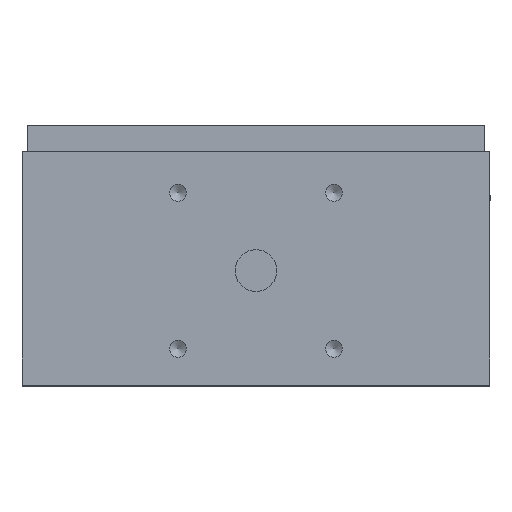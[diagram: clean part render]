
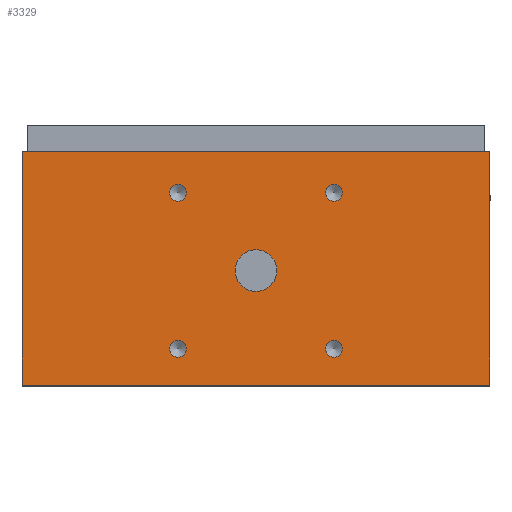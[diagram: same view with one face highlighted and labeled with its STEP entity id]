
A CAD part, top view. The second image highlights one B-rep face of the part: STEP entity #3329.
In plain terms, the highlighted planar face has unit normal (0, 0, 1) as drawn and (0, 0, -1) by its records, which use the part's own axes.
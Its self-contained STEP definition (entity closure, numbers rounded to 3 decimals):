
#3016=CARTESIAN_POINT('',(28.379,8.,0.0));
#3017=VERTEX_POINT('',#3016);
#3018=CARTESIAN_POINT('',(30.0,8.,0.0));
#3019=DIRECTION('',(0.0,0.0,1.0));
#3020=DIRECTION('',(-1.0,0.0,0.0));
#3021=AXIS2_PLACEMENT_3D('',#3018,#3019,#3020);
#3022=CIRCLE('',#3021,1.621);
#3023=EDGE_CURVE('',#3017,#3017,#3022,.T.);
#3053=CARTESIAN_POINT('',(58.379,8.,0.0));
#3054=VERTEX_POINT('',#3053);
#3055=CARTESIAN_POINT('',(60.0,8.,0.0));
#3056=DIRECTION('',(0.0,0.0,1.0));
#3057=DIRECTION('',(-1.0,0.0,0.0));
#3058=AXIS2_PLACEMENT_3D('',#3055,#3056,#3057);
#3059=CIRCLE('',#3058,1.621);
#3060=EDGE_CURVE('',#3054,#3054,#3059,.T.);
#3090=CARTESIAN_POINT('',(28.379,38.0,0.0));
#3091=VERTEX_POINT('',#3090);
#3092=CARTESIAN_POINT('',(30.0,38.0,0.0));
#3093=DIRECTION('',(0.0,0.0,1.0));
#3094=DIRECTION('',(-1.0,0.0,0.0));
#3095=AXIS2_PLACEMENT_3D('',#3092,#3093,#3094);
#3096=CIRCLE('',#3095,1.621);
#3097=EDGE_CURVE('',#3091,#3091,#3096,.T.);
#3127=CARTESIAN_POINT('',(58.379,38.0,0.0));
#3128=VERTEX_POINT('',#3127);
#3129=CARTESIAN_POINT('',(60.,38.0,0.0));
#3130=DIRECTION('',(0.0,0.0,1.0));
#3131=DIRECTION('',(-1.0,0.0,0.0));
#3132=AXIS2_PLACEMENT_3D('',#3129,#3130,#3131);
#3133=CIRCLE('',#3132,1.621);
#3134=EDGE_CURVE('',#3128,#3128,#3133,.T.);
#3158=CARTESIAN_POINT('',(41.,23.,0.0));
#3159=VERTEX_POINT('',#3158);
#3160=CARTESIAN_POINT('',(45.,23.,0.0));
#3161=DIRECTION('',(0.0,0.0,1.0));
#3162=DIRECTION('',(1.0,0.0,0.0));
#3163=AXIS2_PLACEMENT_3D('',#3160,#3161,#3162);
#3164=CIRCLE('',#3163,4.0);
#3165=EDGE_CURVE('',#3159,#3159,#3164,.T.);
#3194=CARTESIAN_POINT('',(0.,45.0,0.0));
#3195=VERTEX_POINT('',#3194);
#3202=CARTESIAN_POINT('',(0.0,0.0,0.0));
#3203=VERTEX_POINT('',#3202);
#3204=CARTESIAN_POINT('',(0.,45.0,0.0));
#3205=DIRECTION('',(0.0,-1.0,0.0));
#3206=VECTOR('',#3205,45.0);
#3207=LINE('',#3204,#3206);
#3208=EDGE_CURVE('',#3195,#3203,#3207,.T.);
#3232=CARTESIAN_POINT('',(90.,45.,0.0));
#3233=VERTEX_POINT('',#3232);
#3240=CARTESIAN_POINT('',(90.,45.,0.0));
#3241=DIRECTION('',(-1.0,0.0,0.0));
#3242=VECTOR('',#3241,90.0);
#3243=LINE('',#3240,#3242);
#3244=EDGE_CURVE('',#3233,#3195,#3243,.T.);
#3263=CARTESIAN_POINT('',(90.,0.,0.0));
#3264=VERTEX_POINT('',#3263);
#3271=CARTESIAN_POINT('',(90.,0.,0.0));
#3272=DIRECTION('',(0.0,1.0,0.0));
#3273=VECTOR('',#3272,45.);
#3274=LINE('',#3271,#3273);
#3275=EDGE_CURVE('',#3264,#3233,#3274,.T.);
#3293=CARTESIAN_POINT('',(0.0,0.0,0.0));
#3294=DIRECTION('',(1.0,0.0,0.0));
#3295=VECTOR('',#3294,90.);
#3296=LINE('',#3293,#3295);
#3297=EDGE_CURVE('',#3203,#3264,#3296,.T.);
#3303=CARTESIAN_POINT('',(45.,22.5,0.0));
#3304=DIRECTION('',(0.0,0.0,1.0));
#3305=DIRECTION('',(1.0,0.0,0.0));
#3306=AXIS2_PLACEMENT_3D('',#3303,#3304,#3305);
#3307=PLANE('',#3306);
#3308=ORIENTED_EDGE('',*,*,#3297,.F.);
#3309=ORIENTED_EDGE('',*,*,#3208,.F.);
#3310=ORIENTED_EDGE('',*,*,#3244,.F.);
#3311=ORIENTED_EDGE('',*,*,#3275,.F.);
#3312=EDGE_LOOP('',(#3308,#3309,#3310,#3311));
#3313=FACE_OUTER_BOUND('',#3312,.T.);
#3314=ORIENTED_EDGE('',*,*,#3023,.T.);
#3315=EDGE_LOOP('',(#3314));
#3316=FACE_BOUND('',#3315,.T.);
#3317=ORIENTED_EDGE('',*,*,#3060,.T.);
#3318=EDGE_LOOP('',(#3317));
#3319=FACE_BOUND('',#3318,.T.);
#3320=ORIENTED_EDGE('',*,*,#3097,.T.);
#3321=EDGE_LOOP('',(#3320));
#3322=FACE_BOUND('',#3321,.T.);
#3323=ORIENTED_EDGE('',*,*,#3134,.T.);
#3324=EDGE_LOOP('',(#3323));
#3325=FACE_BOUND('',#3324,.T.);
#3326=ORIENTED_EDGE('',*,*,#3165,.T.);
#3327=EDGE_LOOP('',(#3326));
#3328=FACE_BOUND('',#3327,.T.);
#3329=ADVANCED_FACE('',(#3313,#3316,#3319,#3322,#3325,#3328),#3307,.F.);
